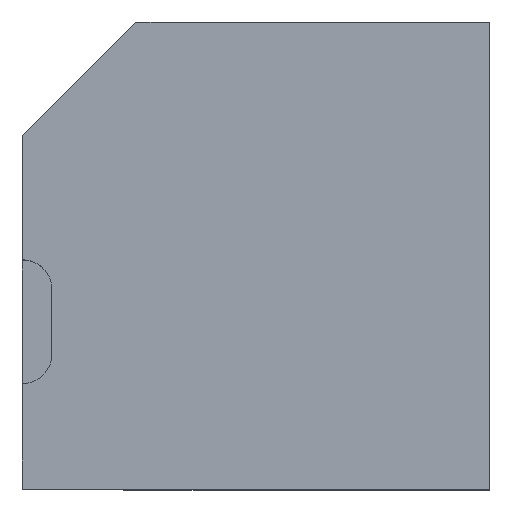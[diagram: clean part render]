
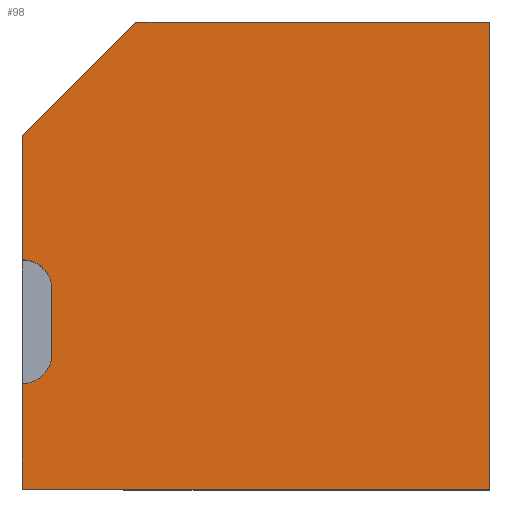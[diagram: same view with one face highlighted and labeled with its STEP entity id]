
A CAD part, top view. The second image highlights one B-rep face of the part: STEP entity #98.
In plain terms, the highlighted planar face has unit normal (0, 0, 1).
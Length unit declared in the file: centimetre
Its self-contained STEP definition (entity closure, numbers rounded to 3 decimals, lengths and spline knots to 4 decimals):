
#2 = EDGE_CURVE ( 'NONE', #29, #831, #757, .T. ) ;
#12 = CARTESIAN_POINT ( 'NONE',  ( 0., 490.9514, 1000. ) ) ;
#29 = VERTEX_POINT ( 'NONE', #723 ) ;
#78 = VERTEX_POINT ( 'NONE', #918 ) ;
#92 = DIRECTION ( 'NONE',  ( 1., 0., 0. ) ) ;
#93 = VERTEX_POINT ( 'NONE', #12 ) ;
#96 = CARTESIAN_POINT ( 'NONE',  ( 0., 0., 1000. ) ) ;
#98 = ADVANCED_FACE ( 'NONE', ( #290 ), #490, .T. ) ;
#107 = VECTOR ( 'NONE', #729, 100. ) ;
#111 = EDGE_CURVE ( 'NONE', #767, #817, #337, .T. ) ;
#125 = DIRECTION ( 'NONE',  ( -0.707, -0.707, 0. ) ) ;
#126 = EDGE_CURVE ( 'NONE', #421, #866, #311, .T. ) ;
#158 = DIRECTION ( 'NONE',  ( 0., -1., 0. ) ) ;
#177 = LINE ( 'NONE', #96, #107 ) ;
#180 = CIRCLE ( 'NONE', #200, 63.1548 ) ;
#200 = AXIS2_PLACEMENT_3D ( 'NONE', #369, #1003, #894 ) ;
#223 = EDGE_CURVE ( 'NONE', #817, #642, #1017, .T. ) ;
#225 = CARTESIAN_POINT ( 'NONE',  ( 243.0875, 1000., 1000. ) ) ;
#244 = CARTESIAN_POINT ( 'NONE',  ( 0., 0., 1000. ) ) ;
#254 = AXIS2_PLACEMENT_3D ( 'NONE', #469, #390, #632 ) ;
#290 = FACE_OUTER_BOUND ( 'NONE', #447, .T. ) ;
#310 = EDGE_CURVE ( 'NONE', #29, #421, #180, .T. ) ;
#311 = LINE ( 'NONE', #462, #422 ) ;
#335 = VECTOR ( 'NONE', #671, 100. ) ;
#337 = LINE ( 'NONE', #572, #565 ) ;
#369 = CARTESIAN_POINT ( 'NONE',  ( 0., 289.3416, 1000. ) ) ;
#389 = DIRECTION ( 'NONE',  ( -1., 0., 0. ) ) ;
#390 = DIRECTION ( 'NONE',  ( 0., 0., 1. ) ) ;
#402 = EDGE_CURVE ( 'NONE', #642, #78, #522, .T. ) ;
#406 = CARTESIAN_POINT ( 'NONE',  ( 63.1548, 427.7966, 1000. ) ) ;
#421 = VERTEX_POINT ( 'NONE', #610 ) ;
#422 = VECTOR ( 'NONE', #530, 100. ) ;
#426 = ORIENTED_EDGE ( 'NONE', *, *, #111, .T. ) ;
#447 = EDGE_LOOP ( 'NONE', ( #467, #573, #524, #426, #765, #989, #786, #787, #584 ) ) ;
#457 = VECTOR ( 'NONE', #125, 100. ) ;
#462 = CARTESIAN_POINT ( 'NONE',  ( 63.1548, 427.7966, 1000. ) ) ;
#467 = ORIENTED_EDGE ( 'NONE', *, *, #310, .F. ) ;
#469 = CARTESIAN_POINT ( 'NONE',  ( 0., 427.7966, 1000. ) ) ;
#490 = PLANE ( 'NONE',  #726 ) ;
#495 = CIRCLE ( 'NONE', #254, 63.1548 ) ;
#522 = LINE ( 'NONE', #746, #457 ) ;
#524 = ORIENTED_EDGE ( 'NONE', *, *, #1010, .T. ) ;
#530 = DIRECTION ( 'NONE',  ( 0., 1., 0. ) ) ;
#554 = LINE ( 'NONE', #873, #662 ) ;
#565 = VECTOR ( 'NONE', #889, 100. ) ;
#572 = CARTESIAN_POINT ( 'NONE',  ( 1000., 1000., 1000. ) ) ;
#573 = ORIENTED_EDGE ( 'NONE', *, *, #2, .T. ) ;
#584 = ORIENTED_EDGE ( 'NONE', *, *, #126, .F. ) ;
#599 = EDGE_CURVE ( 'NONE', #866, #93, #495, .T. ) ;
#610 = CARTESIAN_POINT ( 'NONE',  ( 63.1548, 289.3416, 1000. ) ) ;
#625 = CARTESIAN_POINT ( 'NONE',  ( 1000., 0., 1000. ) ) ;
#628 = CARTESIAN_POINT ( 'NONE',  ( 1000., 1000., 1000. ) ) ;
#632 = DIRECTION ( 'NONE',  ( -1., 0., 0. ) ) ;
#642 = VERTEX_POINT ( 'NONE', #225 ) ;
#662 = VECTOR ( 'NONE', #158, 100. ) ;
#671 = DIRECTION ( 'NONE',  ( 0., -1., 0. ) ) ;
#723 = CARTESIAN_POINT ( 'NONE',  ( 0., 226.1868, 1000. ) ) ;
#726 = AXIS2_PLACEMENT_3D ( 'NONE', #809, #798, #92 ) ;
#729 = DIRECTION ( 'NONE',  ( 1., 0., 0. ) ) ;
#746 = CARTESIAN_POINT ( 'NONE',  ( -378.4563, 378.4563, 1000. ) ) ;
#757 = LINE ( 'NONE', #898, #335 ) ;
#765 = ORIENTED_EDGE ( 'NONE', *, *, #223, .T. ) ;
#767 = VERTEX_POINT ( 'NONE', #625 ) ;
#786 = ORIENTED_EDGE ( 'NONE', *, *, #1025, .T. ) ;
#787 = ORIENTED_EDGE ( 'NONE', *, *, #599, .F. ) ;
#798 = DIRECTION ( 'NONE',  ( 0., 0., 1. ) ) ;
#809 = CARTESIAN_POINT ( 'NONE',  ( 0., 0., 1000. ) ) ;
#817 = VERTEX_POINT ( 'NONE', #628 ) ;
#831 = VERTEX_POINT ( 'NONE', #244 ) ;
#866 = VERTEX_POINT ( 'NONE', #406 ) ;
#873 = CARTESIAN_POINT ( 'NONE',  ( 0., 1000., 1000. ) ) ;
#889 = DIRECTION ( 'NONE',  ( 0., 1., 0. ) ) ;
#894 = DIRECTION ( 'NONE',  ( 1., 0., 0. ) ) ;
#898 = CARTESIAN_POINT ( 'NONE',  ( 0., 1000., 1000. ) ) ;
#918 = CARTESIAN_POINT ( 'NONE',  ( 0., 756.9125, 1000. ) ) ;
#989 = ORIENTED_EDGE ( 'NONE', *, *, #402, .T. ) ;
#1003 = DIRECTION ( 'NONE',  ( 0., 0., 1. ) ) ;
#1004 = VECTOR ( 'NONE', #389, 100. ) ;
#1010 = EDGE_CURVE ( 'NONE', #831, #767, #177, .T. ) ;
#1015 = CARTESIAN_POINT ( 'NONE',  ( 0., 1000., 1000. ) ) ;
#1017 = LINE ( 'NONE', #1015, #1004 ) ;
#1025 = EDGE_CURVE ( 'NONE', #78, #93, #554, .T. ) ;
